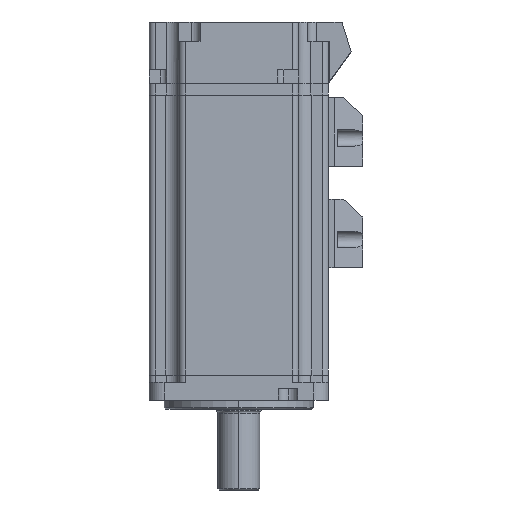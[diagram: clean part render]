
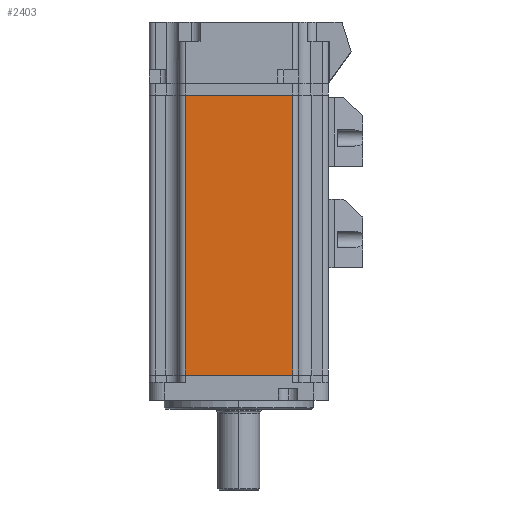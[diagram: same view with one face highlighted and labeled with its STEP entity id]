
A CAD part, left-side view. The second image highlights one B-rep face of the part: STEP entity #2403.
In plain terms, the highlighted planar face has unit normal (-1, 0, 0).
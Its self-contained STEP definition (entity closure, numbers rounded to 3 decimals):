
#463 = EDGE_CURVE ( 'NONE', #12086, #2655, #2238, .T. ) ;
#545 = LINE ( 'NONE', #7126, #16131 ) ;
#1692 = VECTOR ( 'NONE', #8796, 1000. ) ;
#1755 = DIRECTION ( 'NONE',  ( -1., 0., 0. ) ) ;
#2238 = LINE ( 'NONE', #15450, #1692 ) ;
#2403 = ADVANCED_FACE ( 'NONE', ( #13465 ), #6600, .T. ) ;
#2655 = VERTEX_POINT ( 'NONE', #10122 ) ;
#3750 = CARTESIAN_POINT ( 'NONE',  ( -30., -18., -46.85 ) ) ;
#5237 = EDGE_CURVE ( 'NONE', #12086, #7402, #9304, .T. ) ;
#5459 = EDGE_LOOP ( 'NONE', ( #18902, #21132, #14342, #11124 ) ) ;
#6600 = PLANE ( 'NONE',  #9379 ) ;
#6760 = LINE ( 'NONE', #9657, #15121 ) ;
#7126 = CARTESIAN_POINT ( 'NONE',  ( -30., 0., 46.85 ) ) ;
#7402 = VERTEX_POINT ( 'NONE', #16965 ) ;
#8312 = DIRECTION ( 'NONE',  ( 0., -1., 0. ) ) ;
#8796 = DIRECTION ( 'NONE',  ( 0., 0., 1. ) ) ;
#9304 = LINE ( 'NONE', #16052, #13522 ) ;
#9379 = AXIS2_PLACEMENT_3D ( 'NONE', #14757, #1755, #8312 ) ;
#9495 = EDGE_CURVE ( 'NONE', #2655, #21211, #545, .T. ) ;
#9657 = CARTESIAN_POINT ( 'NONE',  ( -30., 18., -46.85 ) ) ;
#10122 = CARTESIAN_POINT ( 'NONE',  ( -30., -18., 46.85 ) ) ;
#11124 = ORIENTED_EDGE ( 'NONE', *, *, #19378, .T. ) ;
#12086 = VERTEX_POINT ( 'NONE', #3750 ) ;
#12731 = DIRECTION ( 'NONE',  ( 0., 1., 0. ) ) ;
#13294 = DIRECTION ( 'NONE',  ( 0., 0., -1. ) ) ;
#13465 = FACE_OUTER_BOUND ( 'NONE', #5459, .T. ) ;
#13522 = VECTOR ( 'NONE', #12731, 1000. ) ;
#14342 = ORIENTED_EDGE ( 'NONE', *, *, #9495, .T. ) ;
#14757 = CARTESIAN_POINT ( 'NONE',  ( -30., 0., 46.85 ) ) ;
#14936 = CARTESIAN_POINT ( 'NONE',  ( -30., 18., 46.85 ) ) ;
#15121 = VECTOR ( 'NONE', #13294, 1000. ) ;
#15450 = CARTESIAN_POINT ( 'NONE',  ( -30., -18., 46.85 ) ) ;
#16052 = CARTESIAN_POINT ( 'NONE',  ( -30., 0., -46.85 ) ) ;
#16131 = VECTOR ( 'NONE', #20197, 1000. ) ;
#16965 = CARTESIAN_POINT ( 'NONE',  ( -30., 18., -46.85 ) ) ;
#18902 = ORIENTED_EDGE ( 'NONE', *, *, #5237, .F. ) ;
#19378 = EDGE_CURVE ( 'NONE', #21211, #7402, #6760, .T. ) ;
#20197 = DIRECTION ( 'NONE',  ( 0., 1., 0. ) ) ;
#21132 = ORIENTED_EDGE ( 'NONE', *, *, #463, .T. ) ;
#21211 = VERTEX_POINT ( 'NONE', #14936 ) ;
